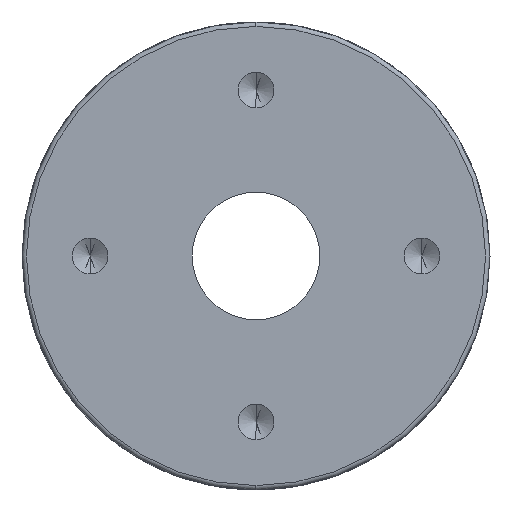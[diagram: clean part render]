
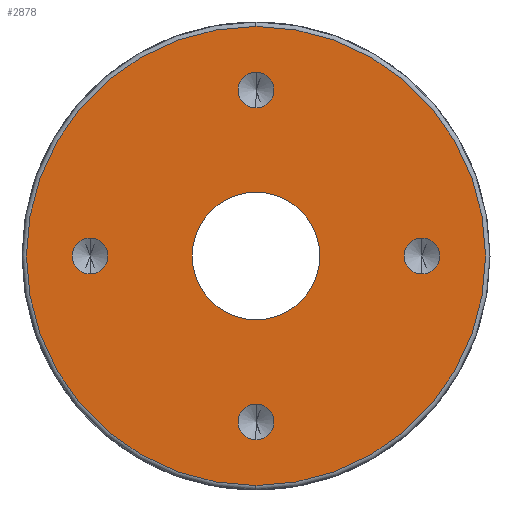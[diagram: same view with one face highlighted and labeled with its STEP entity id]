
A CAD part, left-side view. The second image highlights one B-rep face of the part: STEP entity #2878.
In plain terms, the highlighted planar face has unit normal (-1, 0, 0).
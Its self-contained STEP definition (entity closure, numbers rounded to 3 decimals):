
#323 = FACE_BOUND ( 'NONE', #2879, .T. ) ;
#325 = FACE_BOUND ( 'NONE', #2769, .T. ) ;
#326 = FACE_OUTER_BOUND ( 'NONE', #2787, .T. ) ;
#327 = FACE_BOUND ( 'NONE', #2783, .T. ) ;
#328 = FACE_BOUND ( 'NONE', #2779, .T. ) ;
#329 = FACE_BOUND ( 'NONE', #2774, .T. ) ;
#331 = DIRECTION ( 'NONE',  ( 0., 0., 1. ) ) ;
#332 = DIRECTION ( 'NONE',  ( 0., 0., -1. ) ) ;
#334 = CARTESIAN_POINT ( 'NONE',  ( 0., 0., 0. ) ) ;
#335 = DIRECTION ( 'NONE',  ( -1., 0., 0. ) ) ;
#336 = CARTESIAN_POINT ( 'NONE',  ( 0., 19.5, 0. ) ) ;
#337 = AXIS2_PLACEMENT_3D ( 'NONE', #336, #335, #331 ) ;
#338 = CIRCLE ( 'NONE', #337, 2.1 ) ;
#345 = PLANE ( 'NONE',  #348 ) ;
#347 = DIRECTION ( 'NONE',  ( 1., 0., 0. ) ) ;
#348 = AXIS2_PLACEMENT_3D ( 'NONE', #334, #347, #332 ) ;
#551 = CARTESIAN_POINT ( 'NONE',  ( 0., 0., 21.6 ) ) ;
#605 = CARTESIAN_POINT ( 'NONE',  ( 0., 0., 17.4 ) ) ;
#753 = DIRECTION ( 'NONE',  ( 0., 0., 1. ) ) ;
#754 = DIRECTION ( 'NONE',  ( -1., 0., 0. ) ) ;
#755 = CARTESIAN_POINT ( 'NONE',  ( 0., 0., 0. ) ) ;
#787 = AXIS2_PLACEMENT_3D ( 'NONE', #755, #754, #753 ) ;
#788 = CIRCLE ( 'NONE', #787, 7.5 ) ;
#991 = CARTESIAN_POINT ( 'NONE',  ( 0., 19.5, -2.1 ) ) ;
#1087 = DIRECTION ( 'NONE',  ( -1., 0., 0. ) ) ;
#1141 = DIRECTION ( 'NONE',  ( 0., 0., 1. ) ) ;
#1160 = CARTESIAN_POINT ( 'NONE',  ( 0., 0., -26.98 ) ) ;
#1161 = CARTESIAN_POINT ( 'NONE',  ( 0., 0., 26.98 ) ) ;
#1162 = CARTESIAN_POINT ( 'NONE',  ( 0., -19.5, -2.1 ) ) ;
#1177 = CARTESIAN_POINT ( 'NONE',  ( 0., -19.5, 0. ) ) ;
#1178 = AXIS2_PLACEMENT_3D ( 'NONE', #1177, #1087, #1141 ) ;
#1179 = CIRCLE ( 'NONE', #1178, 2.1 ) ;
#1236 = DIRECTION ( 'NONE',  ( 0., 0., -1. ) ) ;
#1238 = DIRECTION ( 'NONE',  ( -1., 0., 0. ) ) ;
#1253 = CARTESIAN_POINT ( 'NONE',  ( 0., 0., -7.5 ) ) ;
#1261 = CARTESIAN_POINT ( 'NONE',  ( 0., -19.5, 2.1 ) ) ;
#1262 = AXIS2_PLACEMENT_3D ( 'NONE', #1291, #1238, #1236 ) ;
#1263 = CIRCLE ( 'NONE', #1262, 26.98 ) ;
#1291 = CARTESIAN_POINT ( 'NONE',  ( 0., 0., 0. ) ) ;
#1455 = CARTESIAN_POINT ( 'NONE',  ( 0., 0., 0. ) ) ;
#1456 = AXIS2_PLACEMENT_3D ( 'NONE', #1455, #1462, #1461 ) ;
#1457 = CIRCLE ( 'NONE', #1456, 7.5 ) ;
#1460 = CARTESIAN_POINT ( 'NONE',  ( 0., 0., 7.5 ) ) ;
#1461 = DIRECTION ( 'NONE',  ( 0., 0., 1. ) ) ;
#1462 = DIRECTION ( 'NONE',  ( -1., 0., 0. ) ) ;
#1561 = CIRCLE ( 'NONE', #1579, 2.1 ) ;
#1577 = DIRECTION ( 'NONE',  ( -1., 0., 0. ) ) ;
#1578 = CARTESIAN_POINT ( 'NONE',  ( 0., 0., 19.5 ) ) ;
#1579 = AXIS2_PLACEMENT_3D ( 'NONE', #1578, #1577, #1592 ) ;
#1592 = DIRECTION ( 'NONE',  ( 0., 0., 1. ) ) ;
#1619 = DIRECTION ( 'NONE',  ( 0., 0., -1. ) ) ;
#1620 = DIRECTION ( 'NONE',  ( -1., 0., 0. ) ) ;
#1653 = CARTESIAN_POINT ( 'NONE',  ( 0., 0., 0. ) ) ;
#1654 = AXIS2_PLACEMENT_3D ( 'NONE', #1653, #1620, #1619 ) ;
#1655 = CIRCLE ( 'NONE', #1654, 26.98 ) ;
#1672 = CIRCLE ( 'NONE', #1712, 2.1 ) ;
#1679 = DIRECTION ( 'NONE',  ( 0., 0., 1. ) ) ;
#1690 = CIRCLE ( 'NONE', #1729, 2.1 ) ;
#1699 = CARTESIAN_POINT ( 'NONE',  ( 0., 0., -19.5 ) ) ;
#1702 = DIRECTION ( 'NONE',  ( 0., 0., 1. ) ) ;
#1709 = DIRECTION ( 'NONE',  ( 0., 0., 1. ) ) ;
#1710 = DIRECTION ( 'NONE',  ( -1., 0., 0. ) ) ;
#1711 = CARTESIAN_POINT ( 'NONE',  ( 0., -19.5, 0. ) ) ;
#1712 = AXIS2_PLACEMENT_3D ( 'NONE', #1725, #1727, #1679 ) ;
#1725 = CARTESIAN_POINT ( 'NONE',  ( 0., 0., 19.5 ) ) ;
#1727 = DIRECTION ( 'NONE',  ( -1., 0., 0. ) ) ;
#1729 = AXIS2_PLACEMENT_3D ( 'NONE', #1699, #1731, #1702 ) ;
#1730 = AXIS2_PLACEMENT_3D ( 'NONE', #1711, #1710, #1709 ) ;
#1731 = DIRECTION ( 'NONE',  ( -1., 0., 0. ) ) ;
#1732 = CIRCLE ( 'NONE', #1730, 2.1 ) ;
#2131 = DIRECTION ( 'NONE',  ( -1., 0., 0. ) ) ;
#2132 = DIRECTION ( 'NONE',  ( 0., 0., 1. ) ) ;
#2138 = CARTESIAN_POINT ( 'NONE',  ( 0., 0., -21.6 ) ) ;
#2139 = CARTESIAN_POINT ( 'NONE',  ( 0., 0., -19.5 ) ) ;
#2140 = AXIS2_PLACEMENT_3D ( 'NONE', #2139, #2131, #2132 ) ;
#2141 = CIRCLE ( 'NONE', #2140, 2.1 ) ;
#2148 = CARTESIAN_POINT ( 'NONE',  ( 0., 0., -17.4 ) ) ;
#2351 = ORIENTED_EDGE ( 'NONE', *, *, #2767, .T. ) ;
#2352 = EDGE_CURVE ( 'NONE', #2555, #2353, #4166, .T. ) ;
#2353 = VERTEX_POINT ( 'NONE', #4161 ) ;
#2427 = VERTEX_POINT ( 'NONE', #2138 ) ;
#2429 = EDGE_CURVE ( 'NONE', #2427, #2430, #2141, .T. ) ;
#2430 = VERTEX_POINT ( 'NONE', #2148 ) ;
#2471 = VERTEX_POINT ( 'NONE', #551 ) ;
#2490 = VERTEX_POINT ( 'NONE', #605 ) ;
#2555 = VERTEX_POINT ( 'NONE', #991 ) ;
#2605 = EDGE_CURVE ( 'NONE', #2619, #2630, #1179, .T. ) ;
#2619 = VERTEX_POINT ( 'NONE', #1162 ) ;
#2620 = VERTEX_POINT ( 'NONE', #1161 ) ;
#2621 = VERTEX_POINT ( 'NONE', #1160 ) ;
#2627 = EDGE_CURVE ( 'NONE', #2620, #2621, #1263, .T. ) ;
#2630 = VERTEX_POINT ( 'NONE', #1261 ) ;
#2635 = VERTEX_POINT ( 'NONE', #1253 ) ;
#2718 = EDGE_CURVE ( 'NONE', #2635, #2719, #1457, .T. ) ;
#2719 = VERTEX_POINT ( 'NONE', #1460 ) ;
#2731 = EDGE_CURVE ( 'NONE', #2490, #2471, #1561, .T. ) ;
#2767 = EDGE_CURVE ( 'NONE', #2621, #2620, #1655, .T. ) ;
#2768 = ORIENTED_EDGE ( 'NONE', *, *, #2627, .T. ) ;
#2769 = EDGE_LOOP ( 'NONE', ( #3050, #3052 ) ) ;
#2773 = ORIENTED_EDGE ( 'NONE', *, *, #2352, .F. ) ;
#2774 = EDGE_LOOP ( 'NONE', ( #2775, #2778 ) ) ;
#2775 = ORIENTED_EDGE ( 'NONE', *, *, #2776, .F. ) ;
#2776 = EDGE_CURVE ( 'NONE', #2471, #2490, #1672, .T. ) ;
#2778 = ORIENTED_EDGE ( 'NONE', *, *, #2731, .F. ) ;
#2779 = EDGE_LOOP ( 'NONE', ( #2780, #2782 ) ) ;
#2780 = ORIENTED_EDGE ( 'NONE', *, *, #2781, .F. ) ;
#2781 = EDGE_CURVE ( 'NONE', #2430, #2427, #1690, .T. ) ;
#2782 = ORIENTED_EDGE ( 'NONE', *, *, #2429, .F. ) ;
#2783 = EDGE_LOOP ( 'NONE', ( #2784, #2786 ) ) ;
#2784 = ORIENTED_EDGE ( 'NONE', *, *, #2785, .F. ) ;
#2785 = EDGE_CURVE ( 'NONE', #2630, #2619, #1732, .T. ) ;
#2786 = ORIENTED_EDGE ( 'NONE', *, *, #2605, .F. ) ;
#2787 = EDGE_LOOP ( 'NONE', ( #2351, #2768 ) ) ;
#2878 = ADVANCED_FACE ( 'NONE', ( #323, #329, #328, #327, #326, #325 ), #345, .F. ) ;
#2879 = EDGE_LOOP ( 'NONE', ( #2880, #2773 ) ) ;
#2880 = ORIENTED_EDGE ( 'NONE', *, *, #2881, .F. ) ;
#2881 = EDGE_CURVE ( 'NONE', #2353, #2555, #338, .T. ) ;
#3050 = ORIENTED_EDGE ( 'NONE', *, *, #3051, .F. ) ;
#3051 = EDGE_CURVE ( 'NONE', #2719, #2635, #788, .T. ) ;
#3052 = ORIENTED_EDGE ( 'NONE', *, *, #2718, .F. ) ;
#4161 = CARTESIAN_POINT ( 'NONE',  ( 0., 19.5, 2.1 ) ) ;
#4162 = DIRECTION ( 'NONE',  ( 0., 0., 1. ) ) ;
#4163 = DIRECTION ( 'NONE',  ( -1., 0., 0. ) ) ;
#4164 = CARTESIAN_POINT ( 'NONE',  ( 0., 19.5, 0. ) ) ;
#4165 = AXIS2_PLACEMENT_3D ( 'NONE', #4164, #4163, #4162 ) ;
#4166 = CIRCLE ( 'NONE', #4165, 2.1 ) ;
